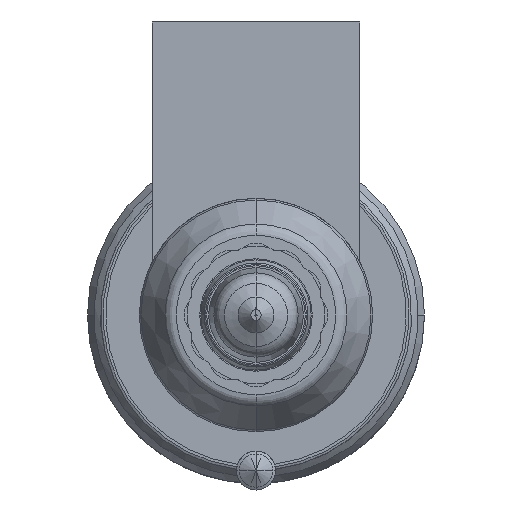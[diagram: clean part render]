
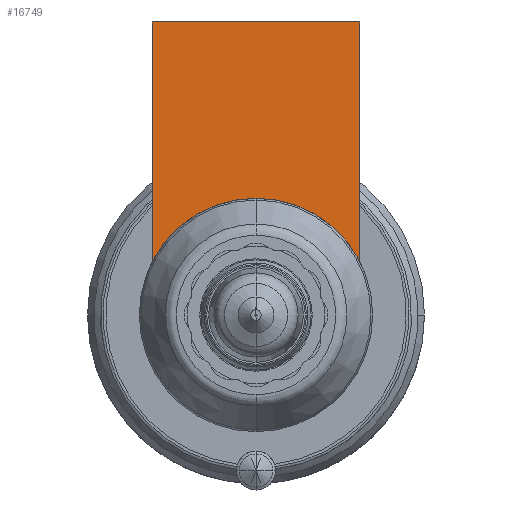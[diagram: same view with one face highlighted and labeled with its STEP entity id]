
A CAD part, front view. The second image highlights one B-rep face of the part: STEP entity #16749.
In plain terms, the highlighted planar face has unit normal (0, -1, 0).
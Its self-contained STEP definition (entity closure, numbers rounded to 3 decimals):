
#15114=DIRECTION('',(0.,0.,-1.));
#15115=VECTOR('',#15114,18.481);
#15116=CARTESIAN_POINT('',(-8.,-54.,22.604));
#15117=LINE('',#15116,#15115);
#15738=CARTESIAN_POINT('',(0.,-54.,0.));
#15739=DIRECTION('',(0.,-1.,0.));
#15740=DIRECTION('',(0.,0.,1.));
#15741=AXIS2_PLACEMENT_3D('',#15738,#15739,#15740);
#15746=DIRECTION('',(1.,0.,0.));
#15747=VECTOR('',#15746,16.);
#15748=CARTESIAN_POINT('',(-8.,-54.,22.604));
#15749=LINE('',#15748,#15747);
#15753=CARTESIAN_POINT('',(0.,-54.,0.));
#15754=DIRECTION('',(0.,-1.,0.));
#15755=DIRECTION('',(0.889,0.,0.458));
#15756=AXIS2_PLACEMENT_3D('',#15753,#15754,#15755);
#15837=DIRECTION('',(0.,0.,-1.));
#15838=VECTOR('',#15837,18.481);
#15839=CARTESIAN_POINT('',(8.,-54.,22.604));
#15840=LINE('',#15839,#15838);
#15946=CARTESIAN_POINT('',(-8.,-54.,22.604));
#15947=VERTEX_POINT('',#15946);
#15952=CARTESIAN_POINT('',(8.,-54.,22.604));
#15953=VERTEX_POINT('',#15952);
#15955=CARTESIAN_POINT('',(-8.,-54.,4.123));
#15957=VERTEX_POINT('',#15955);
#15959=CARTESIAN_POINT('',(8.,-54.,4.123));
#15961=VERTEX_POINT('',#15959);
#15962=CARTESIAN_POINT('',(0.,-54.,9.));
#15963=VERTEX_POINT('',#15962);
#16735=CARTESIAN_POINT('',(-8.,-54.,22.604));
#16736=DIRECTION('',(0.,-1.,0.));
#16737=DIRECTION('',(0.,0.,-1.));
#16738=AXIS2_PLACEMENT_3D('',#16735,#16736,#16737);
#16739=PLANE('',#16738);
#16740=ORIENTED_EDGE('',*,*,#16003,.T.);
#16741=ORIENTED_EDGE('',*,*,#15986,.F.);
#16743=ORIENTED_EDGE('',*,*,#16742,.T.);
#16745=ORIENTED_EDGE('',*,*,#16744,.T.);
#16746=ORIENTED_EDGE('',*,*,#16051,.T.);
#16747=EDGE_LOOP('',(#16740,#16741,#16743,#16745,#16746));
#16748=FACE_OUTER_BOUND('',#16747,.F.);
#16749=ADVANCED_FACE('',(#16748),#16739,.T.);
#15742=CIRCLE('',#15741,9.);
#15757=CIRCLE('',#15756,9.);
#15986=EDGE_CURVE('',#15947,#15957,#15117,.T.);
#16003=EDGE_CURVE('',#15963,#15957,#15742,.T.);
#16051=EDGE_CURVE('',#15961,#15963,#15757,.T.);
#16742=EDGE_CURVE('',#15947,#15953,#15749,.T.);
#16744=EDGE_CURVE('',#15953,#15961,#15840,.T.);
